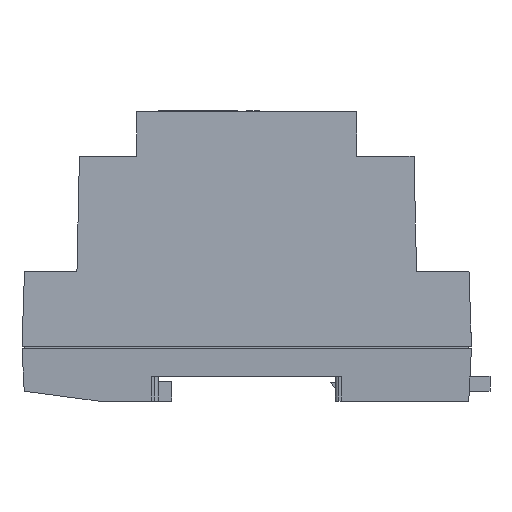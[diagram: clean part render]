
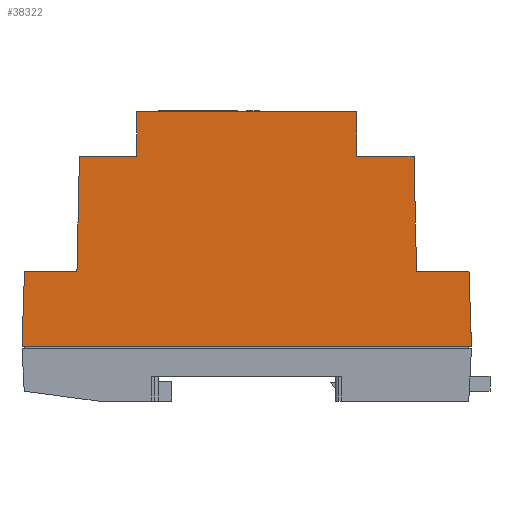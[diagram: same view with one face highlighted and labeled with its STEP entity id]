
A CAD part, left-side view. The second image highlights one B-rep face of the part: STEP entity #38322.
In plain terms, the highlighted planar face has unit normal (-1, 0, 0) as drawn and (0, 0, 1) by its records, which use the part's own axes.
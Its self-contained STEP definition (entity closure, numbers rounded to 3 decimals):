
#623 = EDGE_CURVE ( 'NONE', #18169, #65503, #22787, .T. ) ;
#1711 = CARTESIAN_POINT ( 'NONE',  ( 34., 15., 0. ) ) ;
#1738 = EDGE_CURVE ( 'NONE', #58160, #26221, #57812, .T. ) ;
#2026 = PLANE ( 'NONE',  #34259 ) ;
#2538 = CARTESIAN_POINT ( 'NONE',  ( 22., 38., 0. ) ) ;
#2694 = VECTOR ( 'NONE', #51526, 1000. ) ;
#3190 = CARTESIAN_POINT ( 'NONE',  ( -22., 47., 0. ) ) ;
#4783 = VERTEX_POINT ( 'NONE', #4872 ) ;
#4872 = CARTESIAN_POINT ( 'NONE',  ( -45., 0., 0. ) ) ;
#5023 = ORIENTED_EDGE ( 'NONE', *, *, #54475, .T. ) ;
#5430 = CARTESIAN_POINT ( 'NONE',  ( -22., 38., 0. ) ) ;
#7338 = EDGE_CURVE ( 'NONE', #26221, #35172, #9268, .T. ) ;
#7432 = LINE ( 'NONE', #28792, #33087 ) ;
#7616 = VERTEX_POINT ( 'NONE', #58740 ) ;
#9189 = VECTOR ( 'NONE', #19046, 1000. ) ;
#9268 = LINE ( 'NONE', #1711, #50112 ) ;
#10028 = DIRECTION ( 'NONE',  ( 1., 0., 0. ) ) ;
#11095 = CARTESIAN_POINT ( 'NONE',  ( 34., 15., 0. ) ) ;
#11573 = ORIENTED_EDGE ( 'NONE', *, *, #36818, .F. ) ;
#13035 = ORIENTED_EDGE ( 'NONE', *, *, #1738, .T. ) ;
#15012 = CARTESIAN_POINT ( 'NONE',  ( 45., 0., 0. ) ) ;
#15089 = EDGE_CURVE ( 'NONE', #7616, #65434, #41420, .T. ) ;
#15291 = LINE ( 'NONE', #15388, #42519 ) ;
#15388 = CARTESIAN_POINT ( 'NONE',  ( -44.5, 15., 0. ) ) ;
#15669 = ORIENTED_EDGE ( 'NONE', *, *, #15089, .T. ) ;
#17554 = VERTEX_POINT ( 'NONE', #47786 ) ;
#18169 = VERTEX_POINT ( 'NONE', #56034 ) ;
#18528 = EDGE_LOOP ( 'NONE', ( #15669, #54353, #59594, #11573, #32418, #46926, #42182, #5023, #13035, #47083, #40696, #63166 ) ) ;
#18807 = CARTESIAN_POINT ( 'NONE',  ( -22., 38., 0. ) ) ;
#18959 = CARTESIAN_POINT ( 'NONE',  ( 33.5, 38., 0. ) ) ;
#19046 = DIRECTION ( 'NONE',  ( 1., 0., 0. ) ) ;
#20022 = VECTOR ( 'NONE', #24771, 1000. ) ;
#22787 = LINE ( 'NONE', #37841, #9189 ) ;
#23827 = EDGE_CURVE ( 'NONE', #4783, #49537, #44811, .T. ) ;
#24143 = DIRECTION ( 'NONE',  ( -1., 0., 0. ) ) ;
#24771 = DIRECTION ( 'NONE',  ( 0.022, 1., 0. ) ) ;
#26221 = VERTEX_POINT ( 'NONE', #11095 ) ;
#27168 = CARTESIAN_POINT ( 'NONE',  ( 0., 47., 0. ) ) ;
#27774 = CARTESIAN_POINT ( 'NONE',  ( 0., 47., 0. ) ) ;
#28416 = DIRECTION ( 'NONE',  ( -0.033, 0.999, 0. ) ) ;
#28792 = CARTESIAN_POINT ( 'NONE',  ( -45., 0., 0. ) ) ;
#30661 = VECTOR ( 'NONE', #49869, 1000. ) ;
#31841 = VERTEX_POINT ( 'NONE', #31861 ) ;
#31861 = CARTESIAN_POINT ( 'NONE',  ( -44.5, 15., 0. ) ) ;
#32068 = LINE ( 'NONE', #50272, #20022 ) ;
#32418 = ORIENTED_EDGE ( 'NONE', *, *, #61585, .F. ) ;
#32437 = CARTESIAN_POINT ( 'NONE',  ( 22., 38., 0. ) ) ;
#32933 = DIRECTION ( 'NONE',  ( -1., 0., 0. ) ) ;
#33087 = VECTOR ( 'NONE', #33965, 1000. ) ;
#33810 = VECTOR ( 'NONE', #28416, 1000. ) ;
#33965 = DIRECTION ( 'NONE',  ( 0.033, 0.999, 0. ) ) ;
#34259 = AXIS2_PLACEMENT_3D ( 'NONE', #27774, #63541, #32933 ) ;
#35172 = VERTEX_POINT ( 'NONE', #54045 ) ;
#35233 = EDGE_CURVE ( 'NONE', #4783, #31841, #7432, .T. ) ;
#35654 = EDGE_CURVE ( 'NONE', #64602, #7616, #63328, .T. ) ;
#36818 = EDGE_CURVE ( 'NONE', #17554, #18169, #32068, .T. ) ;
#37841 = CARTESIAN_POINT ( 'NONE',  ( -33.5, 38., 0. ) ) ;
#38322 = ADVANCED_FACE ( 'NONE', ( #57056 ), #2026, .F. ) ;
#40696 = ORIENTED_EDGE ( 'NONE', *, *, #59663, .T. ) ;
#41420 = LINE ( 'NONE', #27168, #53376 ) ;
#42182 = ORIENTED_EDGE ( 'NONE', *, *, #23827, .T. ) ;
#42519 = VECTOR ( 'NONE', #10028, 1000. ) ;
#43096 = VECTOR ( 'NONE', #24143, 1000. ) ;
#43165 = VECTOR ( 'NONE', #49160, 1000. ) ;
#43543 = LINE ( 'NONE', #5430, #2694 ) ;
#44811 = LINE ( 'NONE', #59203, #43165 ) ;
#46926 = ORIENTED_EDGE ( 'NONE', *, *, #35233, .F. ) ;
#47083 = ORIENTED_EDGE ( 'NONE', *, *, #7338, .T. ) ;
#47307 = DIRECTION ( 'NONE',  ( -0.022, 1., 0. ) ) ;
#47403 = LINE ( 'NONE', #59049, #33810 ) ;
#47786 = CARTESIAN_POINT ( 'NONE',  ( -34., 15., 0. ) ) ;
#48136 = VECTOR ( 'NONE', #48653, 1000. ) ;
#48653 = DIRECTION ( 'NONE',  ( 0., 1., 0. ) ) ;
#49143 = CARTESIAN_POINT ( 'NONE',  ( 44.5, 15., 0. ) ) ;
#49160 = DIRECTION ( 'NONE',  ( 1., 0., 0. ) ) ;
#49537 = VERTEX_POINT ( 'NONE', #15012 ) ;
#49869 = DIRECTION ( 'NONE',  ( -1., 0., 0. ) ) ;
#50112 = VECTOR ( 'NONE', #47307, 1000. ) ;
#50272 = CARTESIAN_POINT ( 'NONE',  ( -34., 15., 0. ) ) ;
#51526 = DIRECTION ( 'NONE',  ( 0., 1., 0. ) ) ;
#53376 = VECTOR ( 'NONE', #57360, 1000. ) ;
#54045 = CARTESIAN_POINT ( 'NONE',  ( 33.5, 38., 0. ) ) ;
#54353 = ORIENTED_EDGE ( 'NONE', *, *, #62629, .F. ) ;
#54475 = EDGE_CURVE ( 'NONE', #49537, #58160, #47403, .T. ) ;
#56034 = CARTESIAN_POINT ( 'NONE',  ( -33.5, 38., 0. ) ) ;
#56715 = LINE ( 'NONE', #18959, #43096 ) ;
#57056 = FACE_OUTER_BOUND ( 'NONE', #18528, .T. ) ;
#57360 = DIRECTION ( 'NONE',  ( -1., 0., 0. ) ) ;
#57812 = LINE ( 'NONE', #49143, #30661 ) ;
#58160 = VERTEX_POINT ( 'NONE', #61546 ) ;
#58740 = CARTESIAN_POINT ( 'NONE',  ( 22., 47., 0. ) ) ;
#59049 = CARTESIAN_POINT ( 'NONE',  ( 45., 0., 0. ) ) ;
#59203 = CARTESIAN_POINT ( 'NONE',  ( 0., 0., 0. ) ) ;
#59594 = ORIENTED_EDGE ( 'NONE', *, *, #623, .F. ) ;
#59663 = EDGE_CURVE ( 'NONE', #35172, #64602, #56715, .T. ) ;
#61546 = CARTESIAN_POINT ( 'NONE',  ( 44.5, 15., 0. ) ) ;
#61585 = EDGE_CURVE ( 'NONE', #31841, #17554, #15291, .T. ) ;
#62629 = EDGE_CURVE ( 'NONE', #65503, #65434, #43543, .T. ) ;
#63166 = ORIENTED_EDGE ( 'NONE', *, *, #35654, .T. ) ;
#63328 = LINE ( 'NONE', #2538, #48136 ) ;
#63541 = DIRECTION ( 'NONE',  ( 0., 0., -1. ) ) ;
#64602 = VERTEX_POINT ( 'NONE', #32437 ) ;
#65434 = VERTEX_POINT ( 'NONE', #3190 ) ;
#65503 = VERTEX_POINT ( 'NONE', #18807 ) ;
